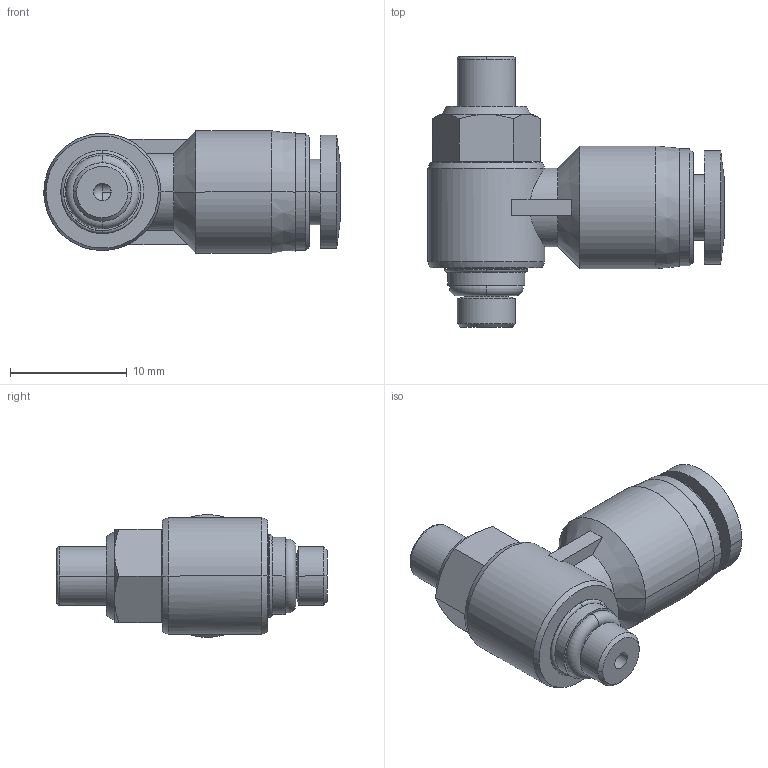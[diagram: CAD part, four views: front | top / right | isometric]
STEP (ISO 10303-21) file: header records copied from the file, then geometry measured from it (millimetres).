
FILE_DESCRIPTION (( 'STEP AP203' ), '1' );
FILE_NAME ('SCLF04-M5.STEP', '2020-05-13T17:28:31', ( '' ), ( '' ), 'SwSTEP 2.0', 'SolidWorks 2019', '' );
FILE_SCHEMA (( 'CONFIG_CONTROL_DESIGN' ));
Length unit declared in the file: millimetre
Products named in the file (1): SCLF04-M5
Bounding box: 25.35 x 23.15 x 10.5 mm (x, y, z)
Surface area: 1793.7 mm2 (no closed solid volume)
Topology: 0 solids, 4 shells, 122 faces, 290 edges, 184 vertices
Faces by surface type: cylinder 39, plane 34, cone 32, torus 10, bspline 6, sphere 1
Entity records: 5616 total; most frequent: CARTESIAN_POINT 3195, ORIENTED_EDGE 570, DIRECTION 315, EDGE_CURVE 289, B_SPLINE_CURVE_WITH_KNOTS 204, VERTEX_POINT 184, EDGE_LOOP 139, AXIS2_PLACEMENT_3D 127
